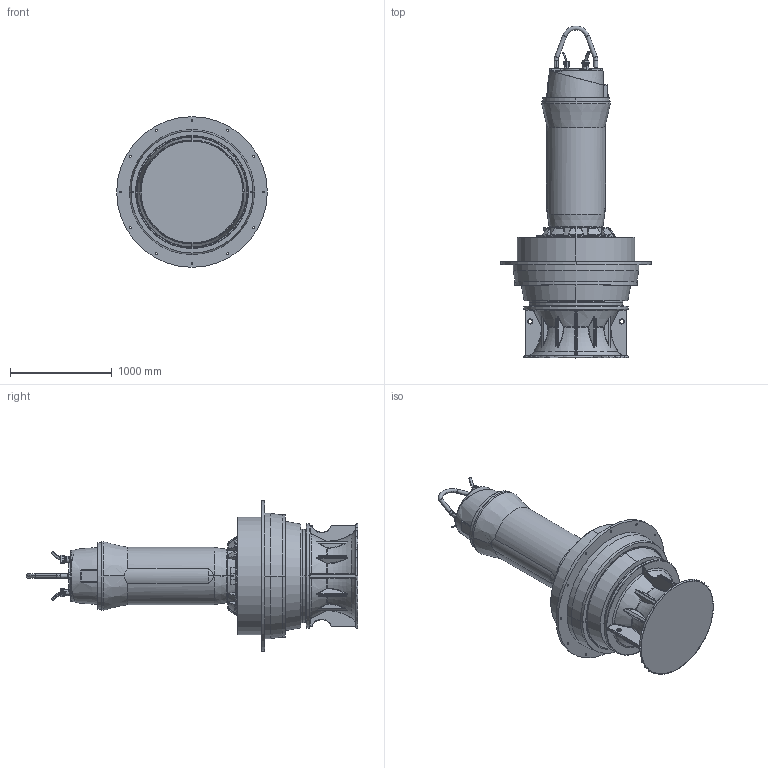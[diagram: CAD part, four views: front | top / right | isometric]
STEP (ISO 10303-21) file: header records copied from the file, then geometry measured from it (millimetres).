
FILE_DESCRIPTION (( 'STEP AP214' ), '1' );
FILE_NAME ('PE7_AFLX1203_FU_B.STEP', '2017-05-09T07:31:35', ( '' ), ( '' ), 'SwSTEP 2.0', 'SolidWorks 2017', '' );
FILE_SCHEMA (( 'AUTOMOTIVE_DESIGN' ));
Length unit declared in the file: millimetre
Products named in the file (1): PE7_AFLX1203_FU_B
Bounding box: 1480 x 3262.8 x 1480 mm (x, y, z)
Volume: 1383832411.9 mm3; surface area: 13726470.1 mm2
Topology: 4 solids, 23 shells, 2913 faces, 7008 edges, 4019 vertices
Faces by surface type: bspline 873, plane 669, cylinder 579, torus 373, cone 300, sphere 119
Entity records: 161440 total; most frequent: CARTESIAN_POINT 68836, ORIENTED_EDGE 13624, DIRECTION 11372, EDGE_CURVE 6812, AXIS2_PLACEMENT_3D 4704, VERTEX_POINT 4018, EDGE_LOOP 3074, UNCERTAINTY_MEASURE_WITH_UNIT 2919
